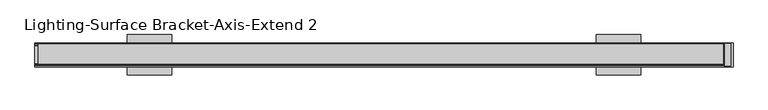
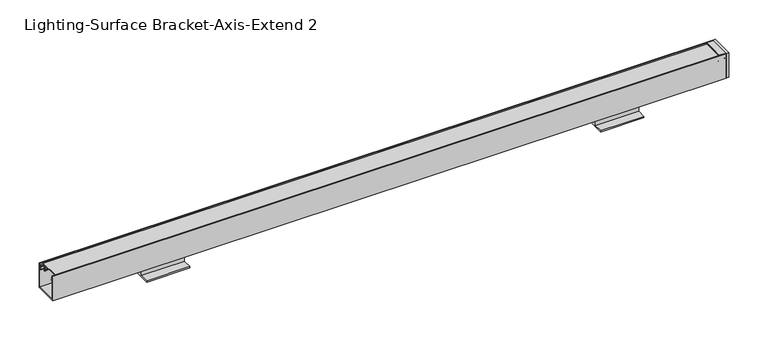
"""IFC4 building model written with IfcOpenShell, lengths in millimetres: light fixture geometry, Lighting-Surface Bracket-Axis-Extend 2 : EX2S-900-80-35-SO-4."""

from ifc_helpers import new_model, si_unit, point, frame, frame_2d, origin, place, context, project, spatial, polyline, circle_curve, trimmed, segment, composite_curve, outline, extrude, source, transform, mapped, element, save


def lighting_surface_bracket_axis_extend_2_561616e4(model_context):
    return source(origin(), model_context, "Body", "SweptSolid", [
        extrude(outline(polyline([(3.5941, 19.05), (60.4139, 19.05), (60.4139, 3.9878), (85.8139335, 3.9878), (85.8139335, 0.0), (-21.8059335, 0.0), (-21.8059335, 3.9878), (3.5941, 3.9878), (3.5941, 19.05)])), frame((-678.10634, 0.0, 0.0), z_axis=(1.0, 0.0, 0.0), x_axis=(0.0, 1.0, 0.0)), (0.0, 0.0, 1.0), 118.69928),
        extrude(outline(polyline([(3.5941, 19.05), (60.4139, 19.05), (60.4139, 3.9878), (85.8139335, 3.9878), (85.8139335, 0.0), (-21.8059335, 0.0), (-21.8059335, 3.9878), (3.5941, 3.9878), (3.5941, 19.05)])), frame((571.58636, 0.0, 0.0), z_axis=(1.0, 0.0, 0.0), x_axis=(0.0, 1.0, 0.0)), (0.0, 0.0, 1.0), 118.69928),
        extrude(outline(polyline([(89.3857861, 911.0726), (87.91575, 911.0726), (87.91575, 911.86635), (88.7095, 911.86635), (88.7095, 918.718), (85.9032981, 918.718), (85.9032981, 929.386), (90.4875, 929.386), (90.4875, 911.9971437), (89.3857861, 911.0726)])), frame((0.0, 2.032, 0.0), z_axis=(0.0, 1.0, 0.0), x_axis=(0.0, 0.0, 1.0)), (0.0, 0.0, 1.0), 59.944),
        extrude(outline(polyline([(929.386, 0.0), (929.386, 64.008), (935.736, 64.008), (935.736, 0.0), (929.386, 0.0)])), frame((0.0, 0.0, 19.05), z_axis=(0.0, 0.0, 1.0), x_axis=(1.0, 0.0, 0.0)), (0.0, 0.0, 1.0), 71.4375),
        extrude(outline(composite_curve([segment(polyline([(56.1767262, 85.5979991), (7.8312738, 85.5979991), (7.4925819, 79.1353737)]), True, "CONTINUOUS"), segment(trimmed(circle_curve(frame_2d((4.7498, 76.1365)), 4.064), [point((7.4925819, 79.1353737))], [point((6.6221186, 72.5294903))], False, "CARTESIAN"), True, "CONTINUOUS"), segment(trimmed(circle_curve(frame_2d((9.854656, 73.3183457)), 3.3274001), [point((6.6221186, 72.5294903))], [point((7.4374044, 71.0317575))], True, "CARTESIAN"), True, "CONTINUOUS"), segment(trimmed(circle_curve(frame_2d((14.8736823, 78.0660708)), 10.2362001), [point((7.4374044, 71.0317575))], [point((8.7920934, 69.8323555))], True, "CARTESIAN"), True, "CONTINUOUS"), segment(trimmed(circle_curve(frame_2d((8.3016427, 69.1683462)), 0.8255), [point((8.7920934, 69.8323555))], [point((7.811192, 68.5043369))], False, "CARTESIAN"), True, "CONTINUOUS"), segment(trimmed(circle_curve(frame_2d((14.8736831, 78.0660717)), 11.8872013), [point((7.811192, 68.5043369))], [point((6.2380048, 69.8971908))], False, "CARTESIAN"), True, "CONTINUOUS"), segment(trimmed(circle_curve(frame_2d((9.854656, 73.3183457)), 4.9784001), [point((6.2380048, 69.8971908))], [point((4.8931193, 73.72776))], False, "CARTESIAN"), True, "CONTINUOUS"), segment(trimmed(circle_curve(frame_2d((4.7498, 76.1365)), 2.413), [point((4.8931193, 73.72776))], [point((6.5286059, 77.7669658))], True, "CARTESIAN"), True, "CONTINUOUS"), segment(trimmed(circle_curve(frame_2d((8.4010331, 79.4832456)), 2.54), [point((6.5286059, 77.7669658))], [point((5.8645141, 79.6161789))], False, "CARTESIAN"), True, "CONTINUOUS"), segment(polyline([(5.8645141, 79.6161789), (6.178008, 85.5979991), (3.175, 85.5979991), (3.175, 87.503), (60.833, 87.503), (60.833, 85.5979991), (57.829992, 85.5979991), (58.1434859, 79.6161789)]), True, "CONTINUOUS"), segment(trimmed(circle_curve(frame_2d((55.6069669, 79.4832456)), 2.54), [point((58.1434859, 79.6161789))], [point((57.4793941, 77.7669658))], False, "CARTESIAN"), True, "CONTINUOUS"), segment(trimmed(circle_curve(frame_2d((59.2582, 76.1365)), 2.413), [point((57.4793941, 77.7669658))], [point((59.1148807, 73.72776))], True, "CARTESIAN"), True, "CONTINUOUS"), segment(trimmed(circle_curve(frame_2d((54.153344, 73.3183457)), 4.9784001), [point((59.1148807, 73.72776))], [point((57.7699952, 69.8971908))], False, "CARTESIAN"), True, "CONTINUOUS"), segment(trimmed(circle_curve(frame_2d((49.1343169, 78.0660717)), 11.8872013), [point((57.7699952, 69.8971908))], [point((56.196808, 68.5043369))], False, "CARTESIAN"), True, "CONTINUOUS"), segment(trimmed(circle_curve(frame_2d((55.7063573, 69.1683462)), 0.8255), [point((56.196808, 68.5043369))], [point((55.2159066, 69.8323555))], False, "CARTESIAN"), True, "CONTINUOUS"), segment(trimmed(circle_curve(frame_2d((49.1343177, 78.0660708)), 10.2362001), [point((55.2159066, 69.8323555))], [point((56.5705956, 71.0317575))], True, "CARTESIAN"), True, "CONTINUOUS"), segment(trimmed(circle_curve(frame_2d((54.153344, 73.3183457)), 3.3274001), [point((56.5705956, 71.0317575))], [point((57.3858814, 72.5294903))], True, "CARTESIAN"), True, "CONTINUOUS"), segment(trimmed(circle_curve(frame_2d((59.2582, 76.1365)), 4.064), [point((57.3858814, 72.5294903))], [point((56.5154181, 79.1353737))], False, "CARTESIAN"), True, "CONTINUOUS"), segment(polyline([(56.5154181, 79.1353737), (56.1767262, 85.5979991)]), True, "CONTINUOUS")], self_intersect=False)), frame((-914.4, 0.0, 0.0), z_axis=(1.0, 0.0, 0.0), x_axis=(0.0, 1.0, 0.0)), (0.0, 0.0, 1.0), 1828.8),
        extrude(outline(composite_curve([segment(polyline([(61.976, 75.5777), (60.1365797, 75.5777)]), True, "CONTINUOUS"), segment(trimmed(circle_curve(frame_2d((58.6302297, 75.5777)), 1.5063501), [point((60.1365797, 75.5777))], [point((57.8770546, 74.2731626))], False, "CARTESIAN"), True, "CONTINUOUS"), segment(trimmed(circle_curve(frame_2d((59.0682121, 76.3363079)), 2.382315), [point((57.8770546, 74.2731626))], [point((56.6936516, 76.5283682))], False, "CARTESIAN"), True, "CONTINUOUS"), segment(polyline([(56.6936516, 76.5283682), (60.071, 79.3623), (60.071, 77.6097), (61.976, 77.6097), (61.976, 84.1375), (60.071, 84.1375), (60.071, 82.6135), (58.42, 82.7000252), (58.42, 85.4075), (61.976, 85.4075), (61.976, 90.4875), (64.008, 90.4875), (64.008, 19.05), (0.0, 19.05), (0.0, 90.4875), (2.032, 90.4875), (2.032, 85.4075), (5.588, 85.4075), (5.588, 82.7000252), (3.937, 82.6135), (3.937, 84.1375), (2.032, 84.1375), (2.032, 77.6097), (3.937, 77.6097), (3.937, 79.3623), (7.3143484, 76.5283682)]), True, "CONTINUOUS"), segment(trimmed(circle_curve(frame_2d((4.9397879, 76.3363079)), 2.382315), [point((7.3143484, 76.5283682))], [point((6.1309454, 74.2731626))], False, "CARTESIAN"), True, "CONTINUOUS"), segment(trimmed(circle_curve(frame_2d((5.3777703, 75.5777)), 1.5063501), [point((6.1309454, 74.2731626))], [point((3.8714203, 75.5777))], False, "CARTESIAN"), True, "CONTINUOUS"), segment(polyline([(3.8714203, 75.5777), (2.032, 75.5777), (2.032, 21.082), (61.976, 21.082), (61.976, 75.5777)]), True, "CONTINUOUS")], self_intersect=False)), frame((-923.5567, 0.0, 0.0), z_axis=(1.0, 0.0, 0.0), x_axis=(0.0, 1.0, 0.0)), (0.0, 0.0, 1.0), 1852.9427),
    ])


if __name__ == "__main__":
    model = new_model("IFC4")
    model_context = context("Model", 3, world=origin())
    ifc_project = project(units=[si_unit("LENGTHUNIT", "METRE", prefix="MILLI")], contexts=[model_context])
    site = spatial("IfcSite", under=ifc_project)
    building = spatial("IfcBuilding", under=site)
    placement = place(None, origin())
    lighting_surface_bracket_axis_extend_2_shape = lighting_surface_bracket_axis_extend_2_561616e4(model_context)
    element("IfcLightFixture", 1, ObjectType="Lighting-Surface Bracket-Axis-Extend 2 : EX2S-900-80-35-SO-4", at=placement, inside=building, context=model_context, shape_type="MappedRepresentation", body=[
        mapped(lighting_surface_bracket_axis_extend_2_shape, transform((0.0, 0.0, 0.0), x_axis=(1.0, 0.0, 0.0), y_axis=(0.0, 1.0, 0.0), z_axis=(0.0, 0.0, 1.0))),
    ])
    save(model, "model.ifc")
